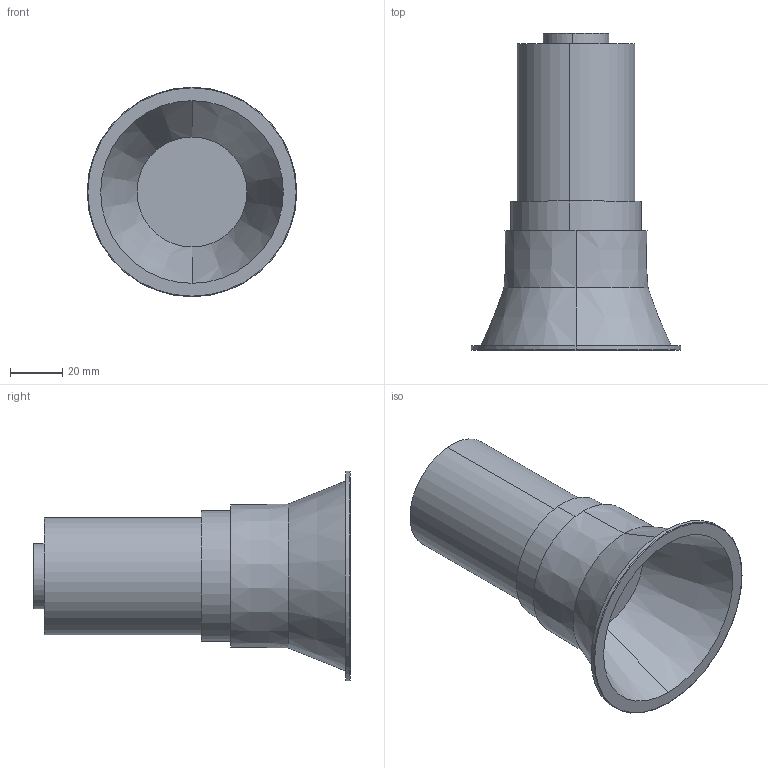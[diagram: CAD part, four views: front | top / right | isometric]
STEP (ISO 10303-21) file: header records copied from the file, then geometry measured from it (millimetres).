
FILE_DESCRIPTION (( 'STEP AP214' ), '1' );
FILE_NAME ('KONO 01-10W.STEP', '2017-08-22T11:55:22', ( 'Ofitecnic3' ), ( 'Microsoft' ), 'SwSTEP 2.0', 'SolidWorks 2016', '' );
FILE_SCHEMA (( 'AUTOMOTIVE_DESIGN' ));
Length unit declared in the file: millimetre
Products named in the file (3): MODULOS VS-BIM_10W; KONO 01-10W; Cuerpo Kono_01_02-BIM_ringO_1
Assembly tree (3 placements, depth 2):
  KONO 01-10W
    Cuerpo Kono_01_02-BIM_ringO_1  x2
    MODULOS VS-BIM_10W
Bounding box: 80 x 121 x 80 mm (x, y, z)
Volume: 180512.1 mm3; surface area: 60397.7 mm2
Topology: 3 solids, 3 shells, 50 faces, 98 edges, 60 vertices
Faces by surface type: cone 20, plane 12, cylinder 10, torus 8
Entity records: 1032 total; most frequent: DIRECTION 170, CARTESIAN_POINT 130, ORIENTED_EDGE 116, AXIS2_PLACEMENT_3D 76, EDGE_CURVE 58, CIRCLE 40, EDGE_LOOP 36, VERTEX_POINT 36
